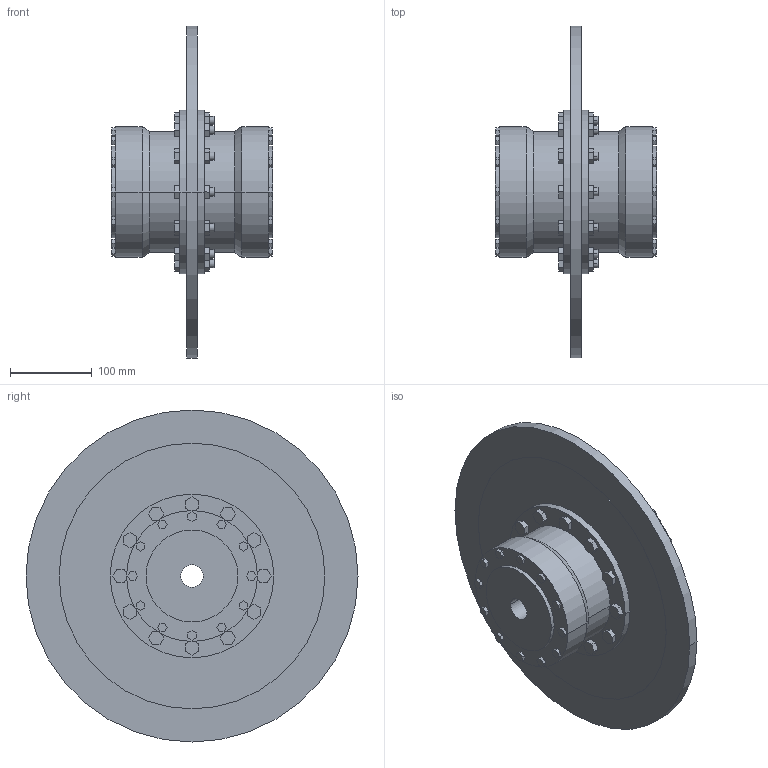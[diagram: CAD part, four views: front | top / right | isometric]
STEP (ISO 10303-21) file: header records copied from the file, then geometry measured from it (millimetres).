
FILE_DESCRIPTION((''),'2;1');
FILE_NAME('A19730000-0_ASM','2019-05-23T',('AB_Roschiwal'),('RENK AG'),'PRO/ENGINEER BY PARAMETRIC TECHNOLOGY CORPORATION, 2015440','PRO/ENGINEER BY PARAMETRIC TECHNOLOGY CORPORATION, 2015440','');
FILE_SCHEMA(('CONFIG_CONTROL_DESIGN'));
Length unit declared in the file: millimetre
Products named in the file (4): SBKT70_GEHAEUSE; SBKT70_NABE; SBKT70_BREMSSCHEIBE; A19730000-0_ASM
Assembly tree (4 placements, depth 2):
  A19730000-0_ASM
    SBKT70_GEHAEUSE
    SBKT70_NABE  x2
    SBKT70_BREMSSCHEIBE
Bounding box: 198 x 406 x 406 mm (x, y, z)
Volume: 4456744.9 mm3; surface area: 656305 mm2
Topology: 4 solids, 4 shells, 470 faces, 1156 edges, 768 vertices
Faces by surface type: plane 370, cylinder 96, cone 4
Entity records: 13604 total; most frequent: CARTESIAN_POINT 2350, ORIENTED_EDGE 2264, DIRECTION 2240, EDGE_CURVE 1132, VECTOR 956, LINE 956, VERTEX_POINT 752, AXIS2_PLACEMENT_3D 642
